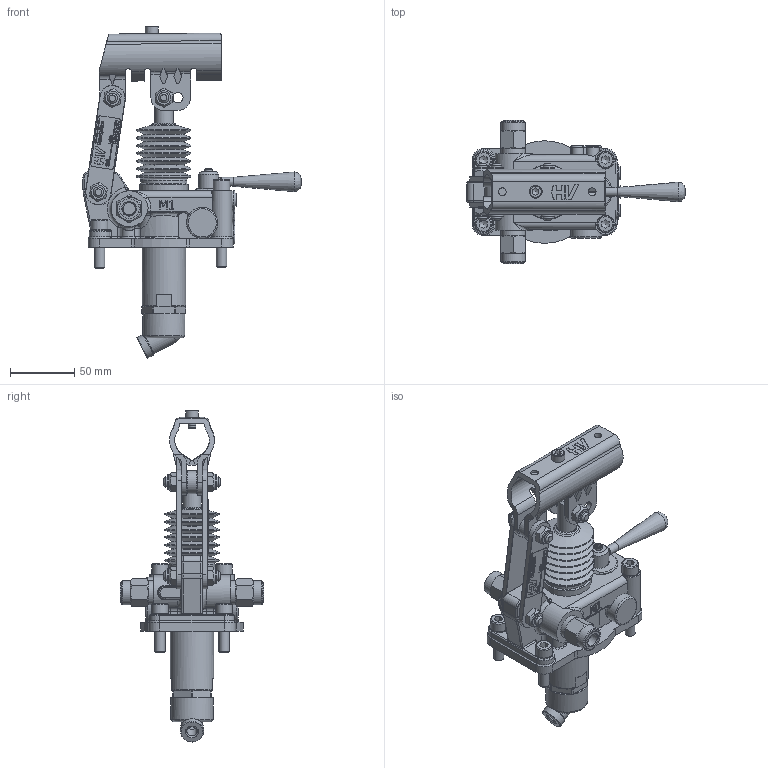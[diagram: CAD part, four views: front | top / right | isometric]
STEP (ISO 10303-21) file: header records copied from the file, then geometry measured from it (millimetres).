
FILE_DESCRIPTION((''),'2;1');
FILE_NAME('G:\HV_HYDRAULIC\AZIENDA_HV_HYDRAULIC\ARCHIVIO_DISEGNI\5_PRODOTTI_FINITI\1_POMPE_MANUALI\6060_PMDVB_12\6060.0103_PMDVB_12_cc-byB-s_(HV)\6060.0103.stp','2024-03-07T13:36:53',('christian.scardovi'),(''),'Autodesk Inventor 2013','Autodesk Inventor 2013','');
FILE_SCHEMA(('AUTOMOTIVE_DESIGN { 1 0 10303 214 1 1 1 1 }'));
Length unit declared in the file: millimetre
Products named in the file (1): 6060.0103
Bounding box: 170 x 112 x 258.81 mm (x, y, z)
Volume: 452361.6 mm3; surface area: 124684.3 mm2
Topology: 3 solids, 3 shells, 1700 faces, 4318 edges, 2735 vertices
Faces by surface type: plane 816, cylinder 374, cone 190, bspline 184, torus 123, sphere 13
Full cylindrical faces by diameter (mm): 1.2 x4, 3 x7, 4 x5, 4.917 x13, 5 x9, 6 x8, 6.5 x3, 6.917 x2, 7 x3, 8 x15, 9 x3, 9.2 x1, 10 x13, 10.376 x1, 10.5 x2, 10.917 x3, 11.05 x6, 11.445 x2, 12 x7, 13 x4, 13.2 x1, 14 x4, 14.5 x1, 14.6 x1, 14.95 x2, 15 x1, 15.5 x2, 15.9 x2, 16 x4, 18 x4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
Entity records: 53229 total; most frequent: CARTESIAN_POINT 14333, ORIENTED_EDGE 7672, DIRECTION 7160, EDGE_CURVE 3836, AXIS2_PLACEMENT_3D 2584, VERTEX_POINT 2584, EDGE_LOOP 2171, VECTOR 1992
